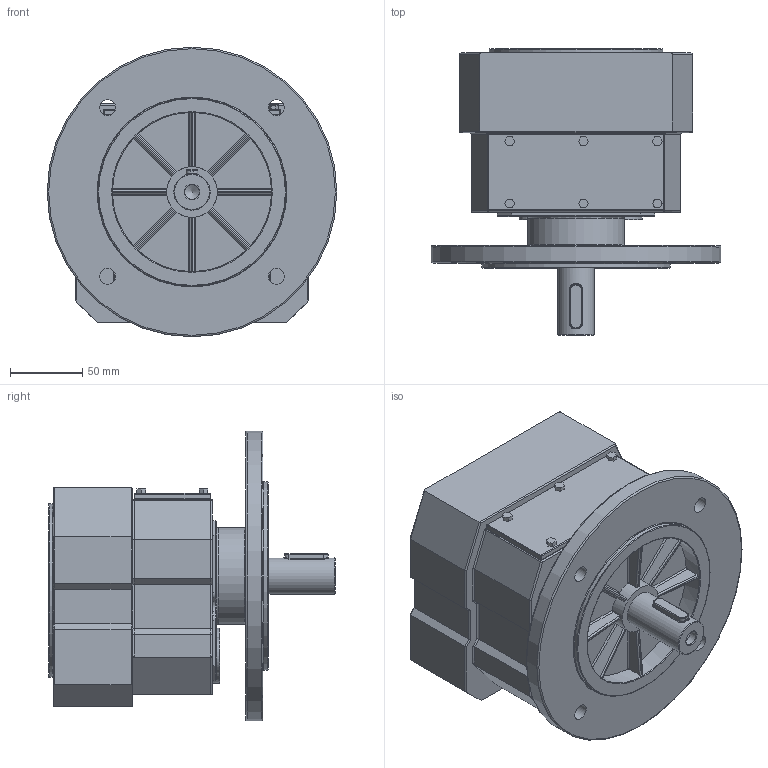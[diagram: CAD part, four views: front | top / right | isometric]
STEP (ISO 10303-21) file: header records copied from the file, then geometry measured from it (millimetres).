
FILE_DESCRIPTION((''),'2;1');
FILE_NAME('D:\PAWEŁ\ZLECENIA\2011 DualSystem\Przekładnie DR\DR30\STEP\DRF30_fi 200.stp','2012-06-11T11:52:13',('admin'),(''),'Autodesk Inventor 2009','Autodesk Inventor 2009','');
FILE_SCHEMA(('AUTOMOTIVE_DESIGN { 1 0 10303 214 1 1 1 1 }'));
Length unit declared in the file: millimetre
Products named in the file (1): DRF30_fi 200
Bounding box: 200 x 198 x 200 mm (x, y, z)
Volume: 2787210.3 mm3; surface area: 209531.1 mm2
Topology: 2 solids, 2 shells, 372 faces, 905 edges, 541 vertices
Faces by surface type: plane 165, cylinder 155, bspline 19, torus 19, sphere 14
Full cylindrical faces by diameter (mm): 25 x1, 25.333 x1, 34 x1, 35 x1, 38 x1, 67 x1, 80 x1, 110 x1, 120 x1, 130 x1, 200 x1
Entity records: 11912 total; most frequent: CARTESIAN_POINT 3198, DIRECTION 1811, ORIENTED_EDGE 1728, EDGE_CURVE 864, AXIS2_PLACEMENT_3D 637, VECTOR 537, LINE 537, VERTEX_POINT 536
